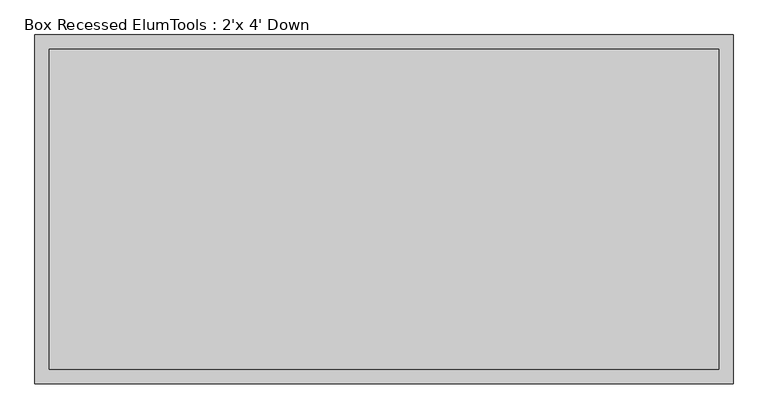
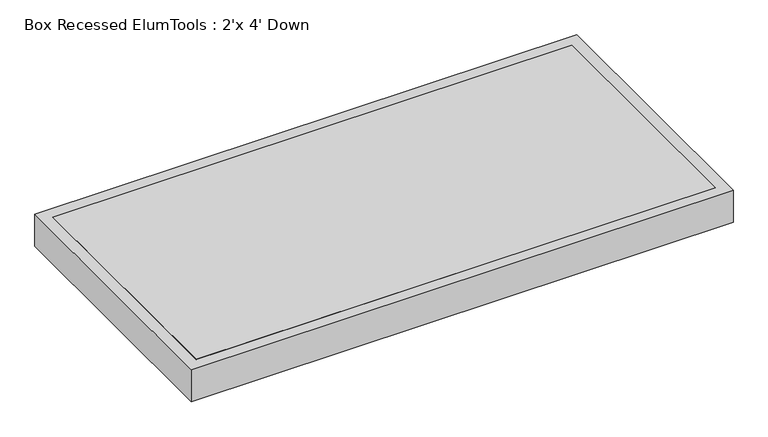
"""IFC4 building model written with IfcOpenShell, lengths in millimetres: light fixture geometry, Box Recessed ElumTools : 2'x 4' Down."""

import ifcopenshell
import ifcopenshell.guid

model = None  # the IFC model being written
_history = None  # IfcOwnerHistory: only IFC2X3 demands one
_inside = {}  # id of a spatial element -> (the spatial element, [elements in it])
_under = {}  # id of a project, library or spatial element -> (it, [spatial elements below it])
_declared = {}  # id of a project -> (the project, [libraries it declares])
_typed = {}  # id of a type object -> (the type object, [elements of that type])
_made_of = {}  # id of a material, layer set ... -> (it, [elements and type objects made of it])


def new_model(schema):
    """Start an empty IFC model of exactly this schema.

    Asked for "IFC4X3", IfcOpenShell would pick the latest addendum, in which some entities
    have other attributes; the version numbers below select the first issue.
    IFC2X3 requires an IfcOwnerHistory on every rooted entity: one is made here for all.
    """
    global model, _history
    if schema == "IFC4X3":
        model = ifcopenshell.file(schema_version=(4, 3, 0, 0))
    else:
        model = ifcopenshell.file(schema=schema)
    _inside.clear()
    _under.clear()
    _declared.clear()
    _typed.clear()
    _made_of.clear()
    _history = None
    if model.schema == "IFC2X3":
        org = make("IfcOrganization", Name="unknown")
        user = make(
            "IfcPersonAndOrganization",
            ThePerson=make("IfcPerson", FamilyName="unknown"),
            TheOrganization=org,
        )
        app = make(
            "IfcApplication",
            ApplicationDeveloper=org,
            Version="unknown",
            ApplicationFullName="unknown",
            ApplicationIdentifier="unknown",
        )
        _history = make(
            "IfcOwnerHistory",
            OwningUser=user,
            OwningApplication=app,
            ChangeAction="ADDED",
            CreationDate=0,
        )
    return model


def make(cls, **values):
    """One entity of the class cls with the attributes given. An attribute that is None is left unset."""
    return model.create_entity(
        cls, **{name: value for name, value in values.items() if value is not None}
    )


def rooted(cls, **values):
    """An entity with a GlobalId (a new one), such as an element, a storey or a relation."""
    return make(cls, GlobalId=ifcopenshell.guid.new(), OwnerHistory=_history, **values)


def si_unit(unit_type, name, prefix=None):
    """IfcSIUnit, for example si_unit("LENGTHUNIT", "METRE", prefix="MILLI")."""
    return make("IfcSIUnit", UnitType=unit_type, Prefix=prefix, Name=name)


def assignment(units):
    """IfcUnitAssignment: the units of a project."""
    return None if units is None else make("IfcUnitAssignment", Units=units)


def point(xyz):
    """IfcCartesianPoint."""
    return None if xyz is None else make("IfcCartesianPoint", Coordinates=xyz)


def direction(xyz):
    """IfcDirection."""
    return None if xyz is None else make("IfcDirection", DirectionRatios=xyz)


def frame(location, z_axis=None, x_axis=None):
    """IfcAxis2Placement3D, a coordinate frame: its origin and axes. An axis left out is left unset."""
    return make(
        "IfcAxis2Placement3D",
        Location=point(location),
        Axis=direction(z_axis),
        RefDirection=direction(x_axis),
    )


def origin():
    """The frame at (0, 0, 0) with its axes left unset."""
    return frame((0.0, 0.0, 0.0))


def place(relative_to, where):
    """IfcLocalPlacement: puts the frame where relative to a parent placement (None: the world)."""
    return make(
        "IfcLocalPlacement", PlacementRelTo=relative_to, RelativePlacement=where
    )


def context(
    kind, dimensions, precision=None, world=None, true_north=None, identifier=None
):
    """IfcGeometricRepresentationContext, for example the 3D "Model" context."""
    return make(
        "IfcGeometricRepresentationContext",
        ContextIdentifier=identifier,
        ContextType=kind,
        CoordinateSpaceDimension=dimensions,
        Precision=precision,
        WorldCoordinateSystem=world,
        TrueNorth=true_north,
    )


def project(units=None, contexts=None):
    """IfcProject with its units and contexts."""
    return rooted(
        "IfcProject",
        Name="project",
        RepresentationContexts=contexts,
        UnitsInContext=assignment(units),
    )


def spatial(cls, under=None, at=None, **own):
    """A site, building, storey or space (cls), placed at a placement, below another one or the project."""
    s = rooted(cls, ObjectPlacement=at, **own)
    if under is not None:
        _under.setdefault(under.id(), (under, []))[1].append(s)
    return s


def polyline(points):
    """IfcPolyline through the points."""
    return make("IfcPolyline", Points=[point(p) for p in points])


def outline(outer, holes=None, kind="AREA"):
    """IfcArbitraryClosedProfileDef: a profile drawn as a closed curve; with holes, ...WithVoids."""
    if holes is None:
        return make("IfcArbitraryClosedProfileDef", ProfileType=kind, OuterCurve=outer)
    return make(
        "IfcArbitraryProfileDefWithVoids",
        ProfileType=kind,
        OuterCurve=outer,
        InnerCurves=holes,
    )


def extrude(swept, where, along, depth):
    """IfcExtrudedAreaSolid: the profile swept, set in the frame where, extruded along a direction by depth."""
    return make(
        "IfcExtrudedAreaSolid",
        SweptArea=swept,
        Position=where,
        ExtrudedDirection=direction(along),
        Depth=depth,
    )


def shape(context_of_items, identifier, shape_type, items):
    """IfcShapeRepresentation: the items that make up one representation, for example the "Body"."""
    return make(
        "IfcShapeRepresentation",
        ContextOfItems=context_of_items,
        RepresentationIdentifier=identifier,
        RepresentationType=shape_type,
        Items=items,
    )


def source(mapping_origin, context_of_items, identifier, shape_type, items):
    """IfcRepresentationMap: a shape defined once, which mapped items show again and again."""
    return make(
        "IfcRepresentationMap",
        MappingOrigin=mapping_origin,
        MappedRepresentation=shape(context_of_items, identifier, shape_type, items),
    )


def transform(
    local_origin,
    x_axis=None,
    y_axis=None,
    z_axis=None,
    scale=None,
    scale2=None,
    scale3=None,
    uniform=True,
):
    """IfcCartesianTransformationOperator3D, or its non-uniform kind. x_axis, y_axis, z_axis: its Axis1, 2, 3."""
    if uniform:
        return make(
            "IfcCartesianTransformationOperator3D",
            Axis1=direction(x_axis),
            Axis2=direction(y_axis),
            LocalOrigin=point(local_origin),
            Scale=scale,
            Axis3=direction(z_axis),
        )
    return make(
        "IfcCartesianTransformationOperator3DnonUniform",
        Axis1=direction(x_axis),
        Axis2=direction(y_axis),
        LocalOrigin=point(local_origin),
        Scale=scale,
        Axis3=direction(z_axis),
        Scale2=scale2,
        Scale3=scale3,
    )


def mapped(mapping_source, mapping_target):
    """IfcMappedItem: shows the shape of a source again, moved by a transform."""
    return make(
        "IfcMappedItem", MappingSource=mapping_source, MappingTarget=mapping_target
    )


def made_of(thing, what):
    """Note that an element or type object is made of a material, layer set ...; save() writes the relation."""
    if what is not None:
        _made_of.setdefault(what.id(), (what, []))[1].append(thing)
    return thing


def element(
    cls,
    number,
    at=None,
    inside=None,
    cuts=None,
    type_object=None,
    material=None,
    context=None,
    identifier="Body",
    shape_type=None,
    held_by="IfcProductDefinitionShape",
    body=None,
    shapes=None,
    **own,
):
    """One element of the class cls, such as IfcWall. Its Tag is "e" and its number.

    at: its placement. inside: the storey or other place that contains it. cuts: it is an
    opening in that element (IfcRelVoidsElement). A single representation is given by context,
    identifier, shape_type and body (its items); several are given by shapes. held_by: the class
    of the entity that holds the representations. save() writes the other relations.
    """
    e = rooted(cls, Tag="e%d" % number, ObjectPlacement=at, **own)
    if body is not None:
        shapes = [shape(context, identifier, shape_type, body)]
    if shapes is not None:
        e.Representation = make(held_by, Representations=shapes)
    if inside is not None:
        _inside.setdefault(inside.id(), (inside, []))[1].append(e)
    if cuts is not None:
        rooted(
            "IfcRelVoidsElement", RelatingBuildingElement=cuts, RelatedOpeningElement=e
        )
    if type_object is not None:
        _typed.setdefault(type_object.id(), (type_object, []))[1].append(e)
    return made_of(e, material)


def aggregate(whole, parts):
    """IfcRelAggregates: a whole, such as a stair, and the parts it consists of."""
    return rooted("IfcRelAggregates", RelatingObject=whole, RelatedObjects=parts)


def save(model, path):
    """Write the relations noted so far, then the file.

    IfcRelAggregates (storeys below a building ...), IfcRelContainedInSpatialStructure (elements
    in a storey), IfcRelDefinesByType, IfcRelAssociatesMaterial and IfcRelDeclares: one each for
    every whole, place, type object, material and project.
    """
    for whole, parts in _under.values():
        aggregate(whole, parts)
    for where, things in _inside.values():
        rooted(
            "IfcRelContainedInSpatialStructure",
            RelatedElements=things,
            RelatingStructure=where,
        )
    for kind, things in _typed.values():
        rooted("IfcRelDefinesByType", RelatedObjects=things, RelatingType=kind)
    for what, things in _made_of.values():
        rooted("IfcRelAssociatesMaterial", RelatedObjects=things, RelatingMaterial=what)
    for by, libraries in _declared.values():
        rooted("IfcRelDeclares", RelatingContext=by, RelatedDefinitions=libraries)
    model.write(path)


def box_recessed_elumtools_2_x_4_down_be8cfc00(model_context):
    return source(origin(), model_context, "Body", "SweptSolid", [
        extrude(outline(polyline([(584.2, 279.4), (584.2, -279.4), (-584.2, -279.4), (-584.2, 279.4), (584.2, 279.4)])), frame((0.0, 0.0, -73.025), z_axis=(0.0, 0.0, 1.0), x_axis=(1.0, 0.0, 0.0)), (0.0, 0.0, 1.0), 76.2),
        extrude(outline(polyline([(609.6, 304.8), (609.6, -304.8), (-609.6, -304.8), (-609.6, 304.8), (609.6, 304.8)]), holes=[polyline([(584.2, 279.4), (-584.2, 279.4), (-584.2, -279.4), (584.2, -279.4), (584.2, 279.4)])]), frame((0.0, 0.0, -73.025), z_axis=(0.0, 0.0, 1.0), x_axis=(1.0, 0.0, 0.0)), (0.0, 0.0, 1.0), 76.2),
    ])


if __name__ == "__main__":
    model = new_model("IFC4")
    model_context = context("Model", 3, world=origin())
    ifc_project = project(units=[si_unit("LENGTHUNIT", "METRE", prefix="MILLI")], contexts=[model_context])
    site = spatial("IfcSite", under=ifc_project)
    building = spatial("IfcBuilding", under=site)
    placement = place(None, origin())
    box_recessed_elumtools_2_x_4_down_shape = box_recessed_elumtools_2_x_4_down_be8cfc00(model_context)
    element("IfcLightFixture", 1, ObjectType="Box Recessed ElumTools : 2'x 4' Down", at=placement, inside=building, context=model_context, shape_type="MappedRepresentation", body=[
        mapped(box_recessed_elumtools_2_x_4_down_shape, transform((0.0, 0.0, 0.0), x_axis=(1.0, 0.0, 0.0), y_axis=(0.0, 1.0, 0.0), z_axis=(0.0, 0.0, 1.0))),
    ])
    save(model, "model.ifc")
